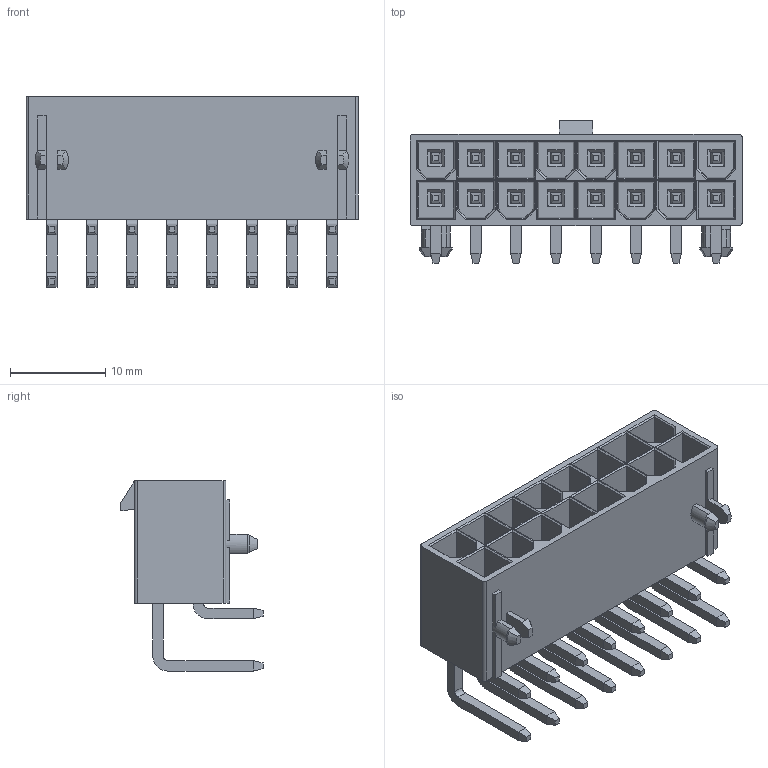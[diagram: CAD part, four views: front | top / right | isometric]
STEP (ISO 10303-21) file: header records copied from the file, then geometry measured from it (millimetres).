
FILE_DESCRIPTION((''),'2;1');
FILE_NAME('S-56985-016XX-012','2021-09-06T',('d35127'),(''),'CREO PARAMETRIC BY PTC INC, 2014500','CREO PARAMETRIC BY PTC INC, 2014500','');
FILE_SCHEMA(('AUTOMOTIVE_DESIGN { 1 0 10303 214 1 1 1 1 }'));
Length unit declared in the file: millimetre
Products named in the file (1): S-56985-016XX-012
Bounding box: 34.8 x 14.9 x 19.93 mm (x, y, z)
Volume: 2281.9 mm3; surface area: 5901 mm2
Topology: 1 solids, 1 shells, 1080 faces, 2705 edges, 1736 vertices
Faces by surface type: plane 968, cylinder 108, cone 4
Entity records: 31606 total; most frequent: CARTESIAN_POINT 5623, ORIENTED_EDGE 5410, DIRECTION 5073, EDGE_CURVE 2705, VECTOR 2433, LINE 2433, VERTEX_POINT 1736, AXIS2_PLACEMENT_3D 1320
